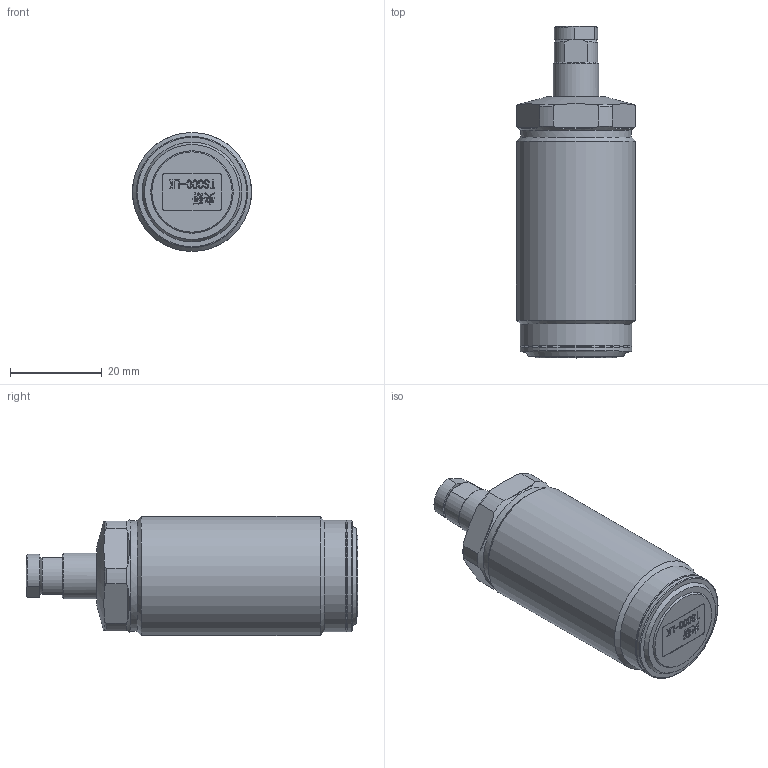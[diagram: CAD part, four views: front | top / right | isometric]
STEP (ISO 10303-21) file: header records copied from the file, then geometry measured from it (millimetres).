
FILE_DESCRIPTION(/* description */ (''),/* implementation_level */ '2;1');
FILE_NAME(/* name */ 'TSC00-LK.stp',/* time_stamp */ '2022-05-04T14:26:30+08:00',/* author */ (''),/* organization */ (''),/* preprocessor_version */ 'ST-DEVELOPER v16.7',/* originating_system */ 'SIEMENS PLM Software NX 12.0',/* authorisation */ '');
FILE_SCHEMA (('AUTOMOTIVE_DESIGN { 1 0 10303 214 3 1 1 1 }'));
Length unit declared in the file: millimetre
Products named in the file (1): _model1
Bounding box: 26 x 72.5 x 26 mm (x, y, z)
Volume: 29793.3 mm3; surface area: 7659.8 mm2
Topology: 3 solids, 3 shells, 251 faces, 642 edges, 421 vertices
Faces by surface type: plane 134, extrusion 60, cylinder 31, torus 13, cone 12, sphere 1
Full cylindrical faces by diameter (mm): 3.5 x1, 4.5 x1, 6 x2, 7.3 x1, 10 x2, 24.2 x1, 24.3 x2, 26 x1
Entity records: 9871 total; most frequent: CARTESIAN_POINT 2974, ORIENTED_EDGE 1212, DIRECTION 965, EDGE_CURVE 606, VECTOR 419, VERTEX_POINT 417, LINE 359, EDGE_LOOP 307
